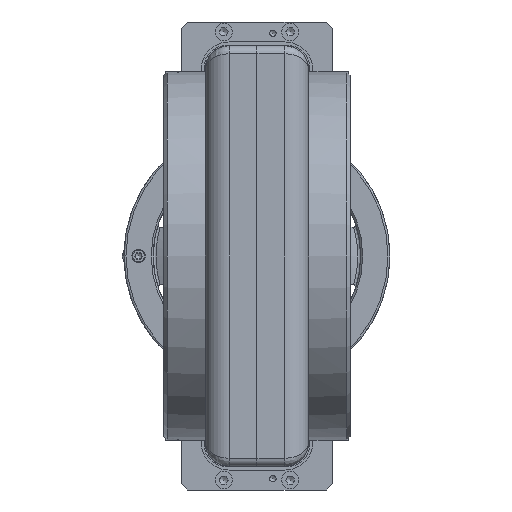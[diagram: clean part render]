
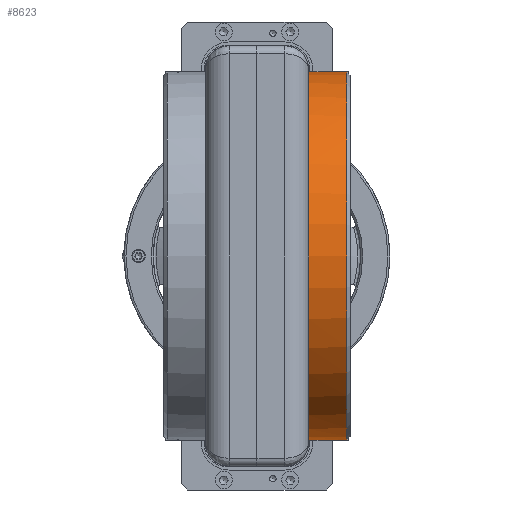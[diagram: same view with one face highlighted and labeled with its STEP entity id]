
A CAD part, left-side view. The second image highlights one B-rep face of the part: STEP entity #8623.
In plain terms, the highlighted cylindrical face has radius 138.5 mm (diameter 277 mm), a full revolution.
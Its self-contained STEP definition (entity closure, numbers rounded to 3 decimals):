
#7224=CYLINDRICAL_SURFACE('',#20746,138.5);
#7785=FACE_BOUND('',#10882,.T.);
#7786=FACE_BOUND('',#10883,.T.);
#8623=ADVANCED_FACE('',(#7785,#7786),#7224,.T.);
#10882=EDGE_LOOP('',(#12567));
#10883=EDGE_LOOP('',(#12568,#12569,#12570,#12571));
#12567=ORIENTED_EDGE('',*,*,#17979,.T.);
#12568=ORIENTED_EDGE('',*,*,#17980,.F.);
#12569=ORIENTED_EDGE('',*,*,#17972,.F.);
#12570=ORIENTED_EDGE('',*,*,#17981,.F.);
#12571=ORIENTED_EDGE('',*,*,#17947,.F.);
#16365=VERTEX_POINT('',#27446);
#16367=VERTEX_POINT('',#27456);
#16387=VERTEX_POINT('',#27541);
#16388=VERTEX_POINT('',#27543);
#16394=VERTEX_POINT('',#27568);
#17947=EDGE_CURVE('',#16367,#16365,#19896,.T.);
#17972=EDGE_CURVE('',#16387,#16388,#19914,.T.);
#17979=EDGE_CURVE('',#16394,#16394,#19920,.T.);
#17980=EDGE_CURVE('',#16388,#16367,#19921,.T.);
#17981=EDGE_CURVE('',#16365,#16387,#19922,.T.);
#19896=CIRCLE('',#20709,138.5);
#19914=CIRCLE('',#20731,138.5);
#19920=CIRCLE('',#20743,138.5);
#19921=CIRCLE('',#20744,138.5);
#19922=CIRCLE('',#20745,138.5);
#20709=AXIS2_PLACEMENT_3D('',#27457,#22742,#22743);
#20731=AXIS2_PLACEMENT_3D('',#27542,#22790,#22791);
#20743=AXIS2_PLACEMENT_3D('',#27567,#22814,#22815);
#20744=AXIS2_PLACEMENT_3D('',#27569,#22816,#22817);
#20745=AXIS2_PLACEMENT_3D('',#27570,#22818,#22819);
#20746=AXIS2_PLACEMENT_3D('',#27571,#22820,#22821);
#22742=DIRECTION('',(-1.,0.,0.));
#22743=DIRECTION('',(0.,0.,1.));
#22790=DIRECTION('',(-1.,0.,0.));
#22791=DIRECTION('',(0.,0.,1.));
#22814=DIRECTION('',(-1.,0.,0.));
#22815=DIRECTION('',(0.,0.,1.));
#22816=DIRECTION('',(-1.,0.,0.));
#22817=DIRECTION('',(0.,0.,1.));
#22818=DIRECTION('',(-1.,0.,0.));
#22819=DIRECTION('',(0.,0.,1.));
#22820=DIRECTION('',(-1.,0.,0.));
#22821=DIRECTION('',(0.,0.,1.));
#27446=CARTESIAN_POINT('',(2.5,-138.468,-3.));
#27456=CARTESIAN_POINT('',(2.5,138.468,-3.));
#27457=CARTESIAN_POINT('',(2.5,0.,0.));
#27541=CARTESIAN_POINT('',(2.5,-138.468,3.));
#27542=CARTESIAN_POINT('',(2.5,0.,0.));
#27543=CARTESIAN_POINT('',(2.5,138.468,3.));
#27567=CARTESIAN_POINT('',(31.,0.,0.));
#27568=CARTESIAN_POINT('',(31.,0.,138.5));
#27569=CARTESIAN_POINT('',(2.5,0.,0.));
#27570=CARTESIAN_POINT('',(2.5,0.,0.));
#27571=CARTESIAN_POINT('',(0.,0.,0.));
